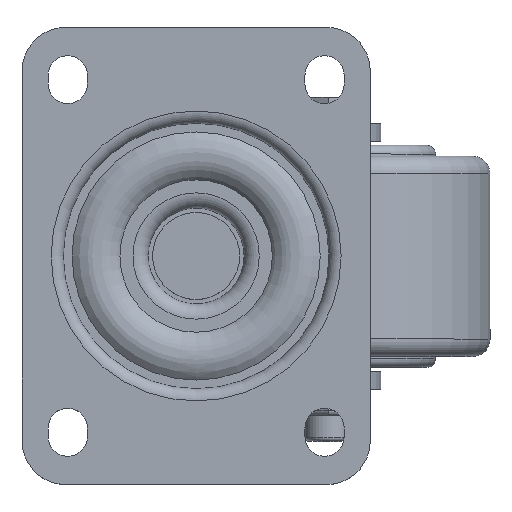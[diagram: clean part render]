
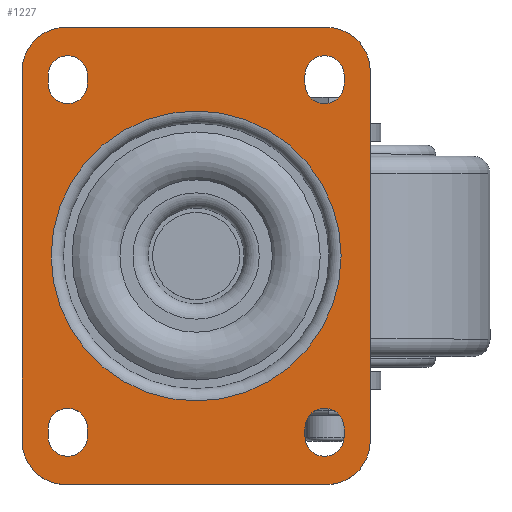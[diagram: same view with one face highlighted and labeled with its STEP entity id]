
A CAD part, top view. The second image highlights one B-rep face of the part: STEP entity #1227.
In plain terms, the highlighted planar face has unit normal (0, 0, 1).
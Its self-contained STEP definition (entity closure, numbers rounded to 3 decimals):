
#444=FACE_BOUND('',#1949,.T.);
#445=FACE_BOUND('',#1950,.T.);
#446=FACE_BOUND('',#1951,.T.);
#447=FACE_BOUND('',#1952,.T.);
#448=FACE_BOUND('',#1953,.T.);
#449=FACE_BOUND('',#1954,.T.);
#716=PLANE('',#7092);
#940=CIRCLE('',#7055,4.5);
#941=CIRCLE('',#7058,4.5);
#942=CIRCLE('',#7062,4.5);
#943=CIRCLE('',#7065,4.5);
#944=CIRCLE('',#7067,4.5);
#945=CIRCLE('',#7070,4.5);
#946=CIRCLE('',#7073,4.5);
#947=CIRCLE('',#7076,4.5);
#948=CIRCLE('',#7079,10.);
#949=CIRCLE('',#7082,10.);
#950=CIRCLE('',#7085,10.);
#951=CIRCLE('',#7088,10.);
#952=CIRCLE('',#7091,33.3);
#1227=ADVANCED_FACE('',(#444,#445,#446,#447,#448,#449),#716,.F.);
#1949=EDGE_LOOP('',(#3381,#3382,#3383,#3384));
#1950=EDGE_LOOP('',(#3385,#3386,#3387,#3388));
#1951=EDGE_LOOP('',(#3389,#3390,#3391,#3392));
#1952=EDGE_LOOP('',(#3393,#3394,#3395,#3396));
#1953=EDGE_LOOP('',(#3397,#3398,#3399,#3400,#3401,#3402,#3403,#3404));
#1954=EDGE_LOOP('',(#3405));
#2485=LINE('',#10098,#2851);
#2487=LINE('',#10104,#2853);
#2489=LINE('',#10108,#2855);
#2492=LINE('',#10116,#2858);
#2496=LINE('',#10128,#2862);
#2499=LINE('',#10136,#2865);
#2503=LINE('',#10146,#2869);
#2505=LINE('',#10152,#2871);
#2508=LINE('',#10160,#2874);
#2511=LINE('',#10168,#2877);
#2514=LINE('',#10176,#2880);
#2517=LINE('',#10184,#2883);
#2851=VECTOR('',#8003,1.);
#2853=VECTOR('',#8011,1.);
#2855=VECTOR('',#8015,1.);
#2858=VECTOR('',#8024,1.);
#2862=VECTOR('',#8038,1.);
#2865=VECTOR('',#8047,1.);
#2869=VECTOR('',#8057,1.);
#2871=VECTOR('',#8065,1.);
#2874=VECTOR('',#8074,1.);
#2877=VECTOR('',#8083,1.);
#2880=VECTOR('',#8092,1.);
#2883=VECTOR('',#8101,1.);
#3381=ORIENTED_EDGE('',*,*,#5931,.F.);
#3382=ORIENTED_EDGE('',*,*,#5929,.F.);
#3383=ORIENTED_EDGE('',*,*,#5927,.F.);
#3384=ORIENTED_EDGE('',*,*,#5932,.F.);
#3385=ORIENTED_EDGE('',*,*,#5938,.F.);
#3386=ORIENTED_EDGE('',*,*,#5937,.F.);
#3387=ORIENTED_EDGE('',*,*,#5934,.F.);
#3388=ORIENTED_EDGE('',*,*,#5940,.F.);
#3389=ORIENTED_EDGE('',*,*,#5947,.F.);
#3390=ORIENTED_EDGE('',*,*,#5944,.F.);
#3391=ORIENTED_EDGE('',*,*,#5943,.F.);
#3392=ORIENTED_EDGE('',*,*,#5948,.F.);
#3393=ORIENTED_EDGE('',*,*,#5955,.F.);
#3394=ORIENTED_EDGE('',*,*,#5953,.F.);
#3395=ORIENTED_EDGE('',*,*,#5951,.F.);
#3396=ORIENTED_EDGE('',*,*,#5956,.F.);
#3397=ORIENTED_EDGE('',*,*,#5957,.F.);
#3398=ORIENTED_EDGE('',*,*,#5972,.F.);
#3399=ORIENTED_EDGE('',*,*,#5970,.F.);
#3400=ORIENTED_EDGE('',*,*,#5968,.F.);
#3401=ORIENTED_EDGE('',*,*,#5966,.F.);
#3402=ORIENTED_EDGE('',*,*,#5964,.F.);
#3403=ORIENTED_EDGE('',*,*,#5962,.F.);
#3404=ORIENTED_EDGE('',*,*,#5960,.F.);
#3405=ORIENTED_EDGE('',*,*,#5973,.F.);
#5201=VERTEX_POINT('',#10091);
#5202=VERTEX_POINT('',#10093);
#5203=VERTEX_POINT('',#10097);
#5204=VERTEX_POINT('',#10101);
#5205=VERTEX_POINT('',#10107);
#5206=VERTEX_POINT('',#10109);
#5207=VERTEX_POINT('',#10113);
#5208=VERTEX_POINT('',#10117);
#5209=VERTEX_POINT('',#10123);
#5210=VERTEX_POINT('',#10125);
#5211=VERTEX_POINT('',#10129);
#5212=VERTEX_POINT('',#10133);
#5213=VERTEX_POINT('',#10139);
#5214=VERTEX_POINT('',#10141);
#5215=VERTEX_POINT('',#10145);
#5216=VERTEX_POINT('',#10149);
#5217=VERTEX_POINT('',#10155);
#5218=VERTEX_POINT('',#10156);
#5219=VERTEX_POINT('',#10161);
#5220=VERTEX_POINT('',#10165);
#5221=VERTEX_POINT('',#10169);
#5222=VERTEX_POINT('',#10173);
#5223=VERTEX_POINT('',#10177);
#5224=VERTEX_POINT('',#10181);
#5225=VERTEX_POINT('',#10187);
#5927=EDGE_CURVE('',#5202,#5201,#940,.T.);
#5929=EDGE_CURVE('',#5201,#5203,#2485,.T.);
#5931=EDGE_CURVE('',#5203,#5204,#941,.T.);
#5932=EDGE_CURVE('',#5204,#5202,#2487,.T.);
#5934=EDGE_CURVE('',#5205,#5206,#2489,.T.);
#5937=EDGE_CURVE('',#5206,#5207,#942,.T.);
#5938=EDGE_CURVE('',#5207,#5208,#2492,.T.);
#5940=EDGE_CURVE('',#5208,#5205,#943,.T.);
#5943=EDGE_CURVE('',#5210,#5209,#944,.T.);
#5944=EDGE_CURVE('',#5209,#5211,#2496,.T.);
#5947=EDGE_CURVE('',#5211,#5212,#945,.T.);
#5948=EDGE_CURVE('',#5212,#5210,#2499,.T.);
#5951=EDGE_CURVE('',#5214,#5213,#946,.T.);
#5953=EDGE_CURVE('',#5213,#5215,#2503,.T.);
#5955=EDGE_CURVE('',#5215,#5216,#947,.T.);
#5956=EDGE_CURVE('',#5216,#5214,#2505,.T.);
#5957=EDGE_CURVE('',#5217,#5218,#948,.T.);
#5960=EDGE_CURVE('',#5218,#5219,#2508,.T.);
#5962=EDGE_CURVE('',#5219,#5220,#949,.T.);
#5964=EDGE_CURVE('',#5220,#5221,#2511,.T.);
#5966=EDGE_CURVE('',#5221,#5222,#950,.T.);
#5968=EDGE_CURVE('',#5222,#5223,#2514,.T.);
#5970=EDGE_CURVE('',#5223,#5224,#951,.T.);
#5972=EDGE_CURVE('',#5224,#5217,#2517,.T.);
#5973=EDGE_CURVE('',#5225,#5225,#952,.T.);
#7055=AXIS2_PLACEMENT_3D('',#10094,#7998,#7999);
#7058=AXIS2_PLACEMENT_3D('',#10102,#8007,#8008);
#7062=AXIS2_PLACEMENT_3D('',#10114,#8020,#8021);
#7065=AXIS2_PLACEMENT_3D('',#10120,#8028,#8029);
#7067=AXIS2_PLACEMENT_3D('',#10126,#8034,#8035);
#7070=AXIS2_PLACEMENT_3D('',#10134,#8043,#8044);
#7073=AXIS2_PLACEMENT_3D('',#10142,#8052,#8053);
#7076=AXIS2_PLACEMENT_3D('',#10150,#8061,#8062);
#7079=AXIS2_PLACEMENT_3D('',#10154,#8068,#8069);
#7082=AXIS2_PLACEMENT_3D('',#10164,#8078,#8079);
#7085=AXIS2_PLACEMENT_3D('',#10172,#8087,#8088);
#7088=AXIS2_PLACEMENT_3D('',#10180,#8096,#8097);
#7091=AXIS2_PLACEMENT_3D('',#10186,#8104,#8105);
#7092=AXIS2_PLACEMENT_3D('',#10188,#8106,#8107);
#7998=DIRECTION('',(0.,0.,1.));
#7999=DIRECTION('',(0.,-1.,0.));
#8003=DIRECTION('',(0.,-1.,0.));
#8007=DIRECTION('',(0.,0.,1.));
#8008=DIRECTION('',(0.,-1.,0.));
#8011=DIRECTION('',(0.,1.,0.));
#8015=DIRECTION('',(0.,-1.,0.));
#8020=DIRECTION('',(0.,0.,1.));
#8021=DIRECTION('',(0.,-1.,0.));
#8024=DIRECTION('',(0.,1.,0.));
#8028=DIRECTION('',(0.,0.,1.));
#8029=DIRECTION('',(0.,-1.,0.));
#8034=DIRECTION('',(0.,0.,1.));
#8035=DIRECTION('',(0.,-1.,0.));
#8038=DIRECTION('',(0.,1.,0.));
#8043=DIRECTION('',(0.,0.,1.));
#8044=DIRECTION('',(0.,-1.,0.));
#8047=DIRECTION('',(0.,-1.,0.));
#8052=DIRECTION('',(0.,0.,1.));
#8053=DIRECTION('',(0.,-1.,0.));
#8057=DIRECTION('',(0.,-1.,0.));
#8061=DIRECTION('',(0.,0.,1.));
#8062=DIRECTION('',(0.,-1.,0.));
#8065=DIRECTION('',(0.,1.,0.));
#8068=DIRECTION('',(0.,0.,-1.));
#8069=DIRECTION('',(0.,-1.,0.));
#8074=DIRECTION('',(1.,0.,0.));
#8078=DIRECTION('',(0.,0.,-1.));
#8079=DIRECTION('',(0.,-1.,0.));
#8083=DIRECTION('',(0.,-1.,0.));
#8087=DIRECTION('',(0.,0.,-1.));
#8088=DIRECTION('',(0.,-1.,0.));
#8092=DIRECTION('',(-1.,0.,0.));
#8096=DIRECTION('',(0.,0.,-1.));
#8097=DIRECTION('',(0.,-1.,0.));
#8101=DIRECTION('',(0.,1.,0.));
#8104=DIRECTION('',(0.,0.,1.));
#8105=DIRECTION('',(0.,-1.,0.));
#8106=DIRECTION('',(0.,0.,-1.));
#8107=DIRECTION('',(0.,-1.,0.));
#10091=CARTESIAN_POINT('',(-34.,41.5,-0.2));
#10093=CARTESIAN_POINT('',(-25.,41.5,-0.2));
#10094=CARTESIAN_POINT('',(-29.5,41.5,-0.2));
#10097=CARTESIAN_POINT('',(-34.,39.5,-0.2));
#10098=CARTESIAN_POINT('',(-34.,-35.,-0.2));
#10101=CARTESIAN_POINT('',(-25.,39.5,-0.2));
#10102=CARTESIAN_POINT('',(-29.5,39.5,-0.2));
#10104=CARTESIAN_POINT('',(-25.,-35.,-0.2));
#10107=CARTESIAN_POINT('',(25.,41.5,-0.2));
#10108=CARTESIAN_POINT('',(25.,-35.,-0.2));
#10109=CARTESIAN_POINT('',(25.,39.5,-0.2));
#10113=CARTESIAN_POINT('',(34.,39.5,-0.2));
#10114=CARTESIAN_POINT('',(29.5,39.5,-0.2));
#10116=CARTESIAN_POINT('',(34.,-35.,-0.2));
#10117=CARTESIAN_POINT('',(34.,41.5,-0.2));
#10120=CARTESIAN_POINT('',(29.5,41.5,-0.2));
#10123=CARTESIAN_POINT('',(-25.,-41.5,-0.2));
#10125=CARTESIAN_POINT('',(-34.,-41.5,-0.2));
#10126=CARTESIAN_POINT('',(-29.5,-41.5,-0.2));
#10128=CARTESIAN_POINT('',(-25.,-35.,-0.2));
#10129=CARTESIAN_POINT('',(-25.,-39.5,-0.2));
#10133=CARTESIAN_POINT('',(-34.,-39.5,-0.2));
#10134=CARTESIAN_POINT('',(-29.5,-39.5,-0.2));
#10136=CARTESIAN_POINT('',(-34.,-35.,-0.2));
#10139=CARTESIAN_POINT('',(25.,-39.5,-0.2));
#10141=CARTESIAN_POINT('',(34.,-39.5,-0.2));
#10142=CARTESIAN_POINT('',(29.5,-39.5,-0.2));
#10145=CARTESIAN_POINT('',(25.,-41.5,-0.2));
#10146=CARTESIAN_POINT('',(25.,-35.,-0.2));
#10149=CARTESIAN_POINT('',(34.,-41.5,-0.2));
#10150=CARTESIAN_POINT('',(29.5,-41.5,-0.2));
#10152=CARTESIAN_POINT('',(34.,-35.,-0.2));
#10154=CARTESIAN_POINT('',(-30.,42.5,-0.2));
#10155=CARTESIAN_POINT('',(-40.,42.5,-0.2));
#10156=CARTESIAN_POINT('',(-30.,52.5,-0.2));
#10160=CARTESIAN_POINT('',(0.,52.5,-0.2));
#10161=CARTESIAN_POINT('',(30.,52.5,-0.2));
#10164=CARTESIAN_POINT('',(30.,42.5,-0.2));
#10165=CARTESIAN_POINT('',(40.,42.5,-0.2));
#10168=CARTESIAN_POINT('',(40.,-35.,-0.2));
#10169=CARTESIAN_POINT('',(40.,-42.5,-0.2));
#10172=CARTESIAN_POINT('',(30.,-42.5,-0.2));
#10173=CARTESIAN_POINT('',(30.,-52.5,-0.2));
#10176=CARTESIAN_POINT('',(0.,-52.5,-0.2));
#10177=CARTESIAN_POINT('',(-30.,-52.5,-0.2));
#10180=CARTESIAN_POINT('',(-30.,-42.5,-0.2));
#10181=CARTESIAN_POINT('',(-40.,-42.5,-0.2));
#10184=CARTESIAN_POINT('',(-40.,-35.,-0.2));
#10186=CARTESIAN_POINT('',(0.,0.,-0.2));
#10187=CARTESIAN_POINT('',(33.3,0.,-0.2));
#10188=CARTESIAN_POINT('',(0.,-35.,-0.2));
